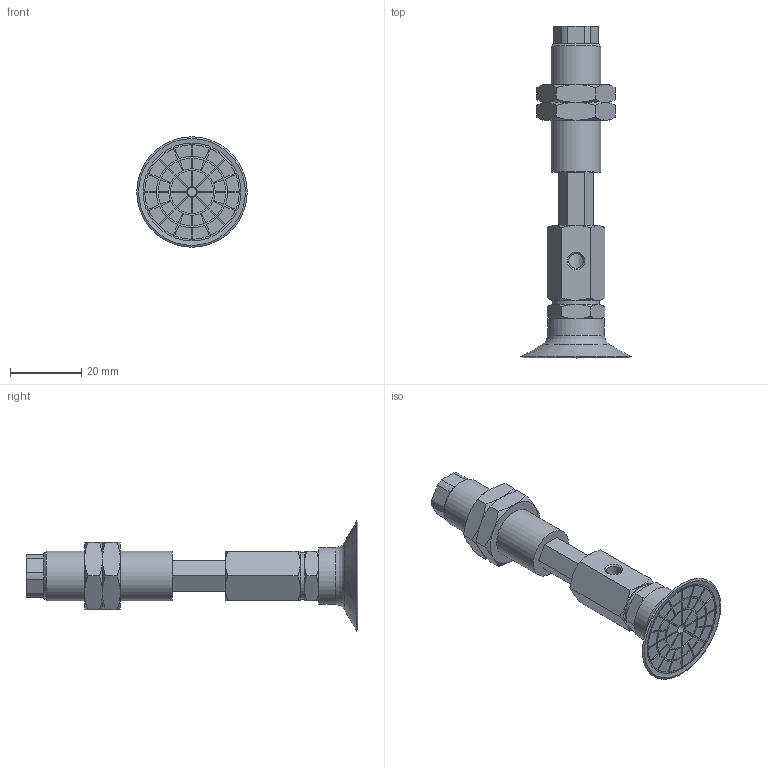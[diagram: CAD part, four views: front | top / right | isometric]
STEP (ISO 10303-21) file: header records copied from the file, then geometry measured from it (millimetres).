
FILE_DESCRIPTION(('STEP AP203'),'1');
FILE_NAME('.stp','2025-03-13T07:49:45',(' '),(' '),'Spatial InterOp 3D',' ',' ');
FILE_SCHEMA(('CONFIG_CONTROL_DESIGN'));
Length unit declared in the file: millimetre
Products named in the file (7): BNABPAYH-30B-15-※; NAPATH-30B-15--M; NAPATH-30B-15--F; Nut-25-S; CONNECTOR-30B-15-PA; TN-PA-30B-M6; BPAG-30B-※
Assembly tree (7 placements, depth 2):
  BNABPAYH-30B-15-※
    NAPATH-30B-15--M
    NAPATH-30B-15--F
    Nut-25-S  x2
    CONNECTOR-30B-15-PA
    TN-PA-30B-M6
    BPAG-30B-※
Bounding box: 31.04 x 93.2 x 31.04 mm (x, y, z)
Volume: 15733.7 mm3; surface area: 11969.1 mm2
Topology: 7 solids, 7 shells, 374 faces, 873 edges, 558 vertices
Faces by surface type: plane 207, cylinder 96, cone 65, torus 6
Full cylindrical faces by diameter (mm): 2.5 x1, 3 x2, 4.134 x2, 4.917 x1, 5 x1, 6 x3, 10 x2, 12.917 x2, 13 x1, 14 x1, 16 x1, 27.5 x1
Entity records: 10458 total; most frequent: CARTESIAN_POINT 2106, DIRECTION 1690, ORIENTED_EDGE 1564, EDGE_CURVE 782, AXIS2_PLACEMENT_3D 624, VERTEX_POINT 524, EDGE_LOOP 444, LINE 442
